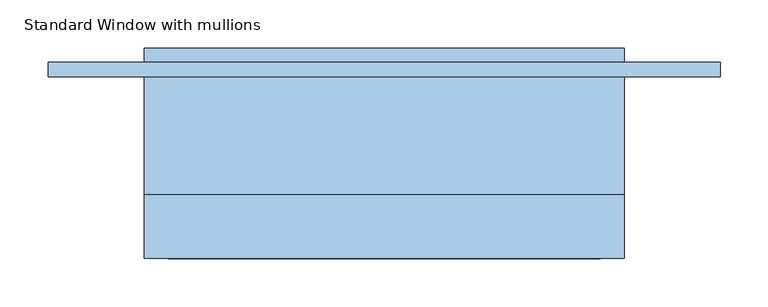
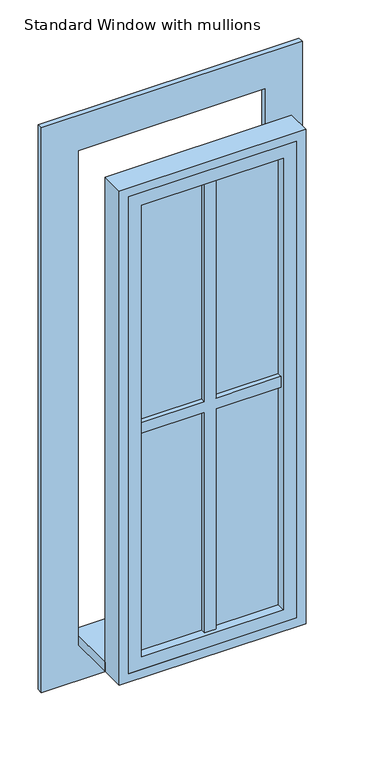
"""IFC4 building model written with IfcOpenShell, lengths in millimetres: window geometry, Standard Window with mullions : 500/1400."""

from ifc_helpers import new_model, si_unit, frame, origin, place, context, project, spatial, polyline, outline, extrude, source, transform, mapped, element, save


def standard_window_with_mullions_cf772253(model_context):
    return source(origin(), model_context, "Body", "SweptSolid", [
        extrude(outline(polyline([(250.0, 26.9623738), (-250.0, 26.9623738), (-250.0, 180.0), (250.0, 180.0), (250.0, 26.9623738)])), frame((0.0, 0.0, 1000.0), z_axis=(0.0, 0.0, 1.0), x_axis=(1.0, 0.0, 0.0)), (0.0, 0.0, 1.0), 25.0),
        extrude(outline(polyline([(2500.0, -350.0), (900.0, -350.0), (900.0, 350.0), (2500.0, 350.0), (2500.0, -350.0)]), holes=[polyline([(2400.0, -250.0), (2400.0, 250.0), (1000.0, 250.0), (1000.0, -250.0), (2400.0, -250.0)])]), frame((0.0, 150.0, 0.0), z_axis=(0.0, 1.0, 0.0), x_axis=(0.0, 0.0, 1.0)), (0.0, 0.0, 1.0), 15.0),
        extrude(outline(polyline([(2375.0, -225.0), (1025.0, -225.0), (1025.0, 225.0), (2375.0, 225.0), (2375.0, -225.0)]), holes=[polyline([(2340.0, -190.0), (2340.0, 190.0), (1060.0, 190.0), (1060.0, -190.0), (2340.0, -190.0)])]), frame((0.0, -39.0188131, 0.0), z_axis=(0.0, 1.0, 0.0), x_axis=(0.0, 0.0, 1.0)), (0.0, 0.0, 1.0), 50.5),
        extrude(outline(polyline([(1000.0, -250.0), (1000.0, 250.0), (2400.0, 250.0), (2400.0, -250.0), (1000.0, -250.0)]), holes=[polyline([(1025.0, -225.0), (2375.0, -225.0), (2375.0, 225.0), (1025.0, 225.0), (1025.0, -225.0)])]), frame((0.0, -39.0188131, 0.0), z_axis=(0.0, 1.0, 0.0), x_axis=(0.0, 0.0, 1.0)), (0.0, 0.0, 1.0), 65.9811869),
        extrude(outline(polyline([(1715.0, 190.0), (1715.0, 15.0), (2340.0, 15.0), (2340.0, -15.0), (1715.0, -15.0), (1715.0, -190.0), (1685.0, -190.0), (1685.0, -15.0), (1060.0, -15.0), (1060.0, 15.0), (1685.0, 15.0), (1685.0, 190.0), (1715.0, 190.0)])), frame((0.0, -28.5188131, 0.0), z_axis=(0.0, 1.0, 0.0), x_axis=(0.0, 0.0, 1.0)), (0.0, 0.0, 1.0), 20.0),
        extrude(outline(polyline([(190.0, -15.5188131), (-190.0, -15.5188131), (-190.0, -13.5188131), (190.0, -13.5188131), (190.0, -15.5188131)])), frame((0.0, 0.0, 1060.0), z_axis=(0.0, 0.0, 1.0), x_axis=(1.0, 0.0, 0.0)), (0.0, 0.0, 1.0), 1280.0),
    ])


if __name__ == "__main__":
    model = new_model("IFC4")
    model_context = context("Model", 3, world=origin())
    ifc_project = project(units=[si_unit("LENGTHUNIT", "METRE", prefix="MILLI")], contexts=[model_context])
    site = spatial("IfcSite", under=ifc_project)
    building = spatial("IfcBuilding", under=site)
    placement = place(None, origin())
    standard_window_with_mullions_shape = standard_window_with_mullions_cf772253(model_context)
    element("IfcWindow", 1, ObjectType="Standard Window with mullions : 500/1400", at=placement, inside=building, context=model_context, shape_type="MappedRepresentation", body=[
        mapped(standard_window_with_mullions_shape, transform((0.0, 0.0, 0.0), x_axis=(1.0, 0.0, 0.0), y_axis=(0.0, 1.0, 0.0), z_axis=(0.0, 0.0, 1.0))),
    ])
    save(model, "model.ifc")
